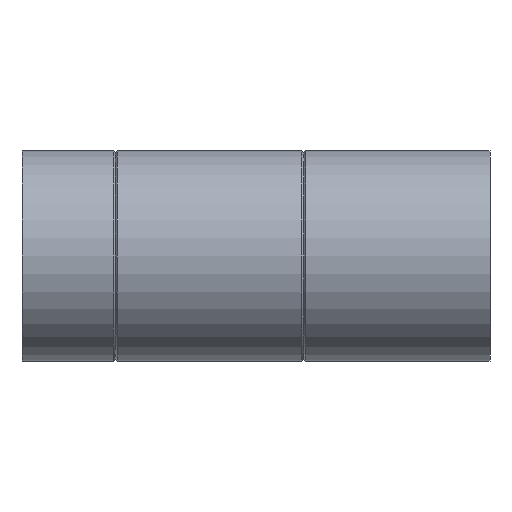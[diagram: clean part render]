
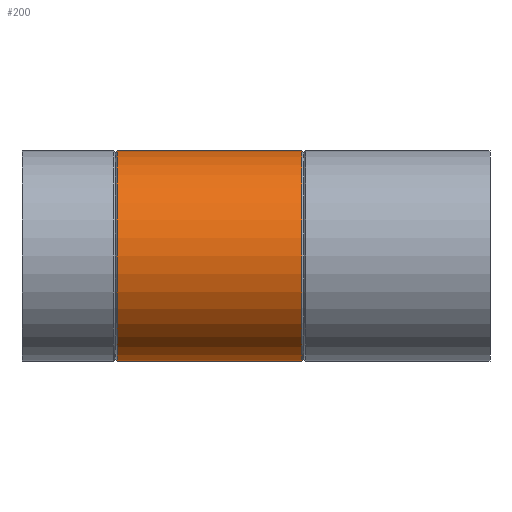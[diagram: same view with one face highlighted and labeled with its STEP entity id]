
A CAD part, left-side view. The second image highlights one B-rep face of the part: STEP entity #200.
In plain terms, the highlighted cylindrical face has radius 45.19 mm (diameter 90.38 mm), a full revolution.
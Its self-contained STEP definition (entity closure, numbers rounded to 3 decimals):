
#15=B_SPLINE_CURVE_WITH_KNOTS($,3,(#325,#326,#327,#328,#329,#330,#331,#332,
#333,#334,#335,#336,#337,#338,#339,#340,#341,#342,#343,#344,#345,#346,#347,
#348,#349,#350,#351,#352,#353,#354,#355,#356,#357,#358,#359,#360,#361,#362,
#363,#364,#365,#366,#367,#368,#369,#370,#371,#372,#373,#374,#375,#376,#377,
#378,#379,#380,#381,#382,#383,#384,#385,#386,#387,#388,#389,#390),
 .UNSPECIFIED.,.T.,.F.,(4,2,2,2,2,2,2,2,2,2,2,2,2,2,2,2,2,2,2,2,2,2,2,2,
2,2,2,2,2,2,2,2,4),(0.,0.553,1.106,1.659,
2.212,2.759,3.307,3.854,4.402,
4.95,5.497,6.045,6.592,7.145,
7.698,8.251,8.804,9.351,9.897,
10.444,10.99,11.536,12.082,12.628,
13.173,13.719,14.265,14.811,15.356,
15.903,16.449,16.996,17.542),
 .UNSPECIFIED.);
#17=CYLINDRICAL_SURFACE($,#222,45.19);
#26=FACE_BOUND($,#63,.T.);
#27=FACE_BOUND($,#64,.T.);
#48=FACE_OUTER_BOUND($,#62,.T.);
#62=EDGE_LOOP($,(#145));
#63=EDGE_LOOP($,(#146));
#64=EDGE_LOOP($,(#147));
#94=CIRCLE($,#221,45.19);
#95=CIRCLE($,#223,45.19);
#109=VERTEX_POINT($,#319);
#110=VERTEX_POINT($,#322);
#111=VERTEX_POINT($,#324);
#126=EDGE_CURVE($,#109,#109,#94,.T.);
#127=EDGE_CURVE($,#110,#110,#95,.T.);
#128=EDGE_CURVE($,#111,#111,#15,.T.);
#145=ORIENTED_EDGE($,*,*,#127,.T.);
#146=ORIENTED_EDGE($,*,*,#128,.T.);
#147=ORIENTED_EDGE($,*,*,#126,.T.);
#200=ADVANCED_FACE($,(#48,#26,#27),#17,.T.);
#221=AXIS2_PLACEMENT_3D($,#320,#258,#259);
#222=AXIS2_PLACEMENT_3D($,#321,#260,#261);
#223=AXIS2_PLACEMENT_3D($,#323,#262,#263);
#258=DIRECTION('center_axis',(0.,-1.,0.));
#259=DIRECTION('ref_axis',(1.,0.,0.));
#260=DIRECTION('center_axis',(0.,1.,0.));
#261=DIRECTION('ref_axis',(1.,0.,0.));
#262=DIRECTION('center_axis',(0.,1.,0.));
#263=DIRECTION('ref_axis',(1.,0.,0.));
#319=CARTESIAN_POINT('',(45.19,160.096,0.));
#320=CARTESIAN_POINT('Origin',(0.,160.096,0.));
#321=CARTESIAN_POINT('Origin',(0.,0.,0.));
#322=CARTESIAN_POINT('',(-45.19,80.904,0.));
#323=CARTESIAN_POINT('Origin',(0.,80.904,0.));
#324=CARTESIAN_POINT('',(35.371,121.426,28.125));
#325=CARTESIAN_POINT('Ctrl Pts',(35.371,121.426,28.125));
#326=CARTESIAN_POINT('Ctrl Pts',(35.371,123.269,28.125));
#327=CARTESIAN_POINT('Ctrl Pts',(35.519,125.148,27.941));
#328=CARTESIAN_POINT('Ctrl Pts',(36.091,128.845,27.2));
#329=CARTESIAN_POINT('Ctrl Pts',(36.512,130.662,26.642));
#330=CARTESIAN_POINT('Ctrl Pts',(37.525,134.125,25.195));
#331=CARTESIAN_POINT('Ctrl Pts',(38.117,135.773,24.304));
#332=CARTESIAN_POINT('Ctrl Pts',(39.344,138.819,22.263));
#333=CARTESIAN_POINT('Ctrl Pts',(39.979,140.216,21.112));
#334=CARTESIAN_POINT('Ctrl Pts',(41.173,142.685,18.675));
#335=CARTESIAN_POINT('Ctrl Pts',(41.778,143.85,17.301));
#336=CARTESIAN_POINT('Ctrl Pts',(42.902,145.926,14.288));
#337=CARTESIAN_POINT('Ctrl Pts',(43.42,146.836,12.648));
#338=CARTESIAN_POINT('Ctrl Pts',(44.28,148.314,9.196));
#339=CARTESIAN_POINT('Ctrl Pts',(44.622,148.882,7.381));
#340=CARTESIAN_POINT('Ctrl Pts',(45.077,149.634,3.695));
#341=CARTESIAN_POINT('Ctrl Pts',(45.19,149.818,1.825));
#342=CARTESIAN_POINT('Ctrl Pts',(45.19,149.818,-1.825));
#343=CARTESIAN_POINT('Ctrl Pts',(45.077,149.634,-3.695));
#344=CARTESIAN_POINT('Ctrl Pts',(44.622,148.882,-7.381));
#345=CARTESIAN_POINT('Ctrl Pts',(44.28,148.314,-9.196));
#346=CARTESIAN_POINT('Ctrl Pts',(43.42,146.836,-12.648));
#347=CARTESIAN_POINT('Ctrl Pts',(42.902,145.926,-14.288));
#348=CARTESIAN_POINT('Ctrl Pts',(41.778,143.85,-17.301));
#349=CARTESIAN_POINT('Ctrl Pts',(41.173,142.685,-18.675));
#350=CARTESIAN_POINT('Ctrl Pts',(39.979,140.216,-21.112));
#351=CARTESIAN_POINT('Ctrl Pts',(39.344,138.819,-22.263));
#352=CARTESIAN_POINT('Ctrl Pts',(38.117,135.773,-24.304));
#353=CARTESIAN_POINT('Ctrl Pts',(37.525,134.125,-25.195));
#354=CARTESIAN_POINT('Ctrl Pts',(36.512,130.662,-26.642));
#355=CARTESIAN_POINT('Ctrl Pts',(36.091,128.845,-27.2));
#356=CARTESIAN_POINT('Ctrl Pts',(35.519,125.148,-27.941));
#357=CARTESIAN_POINT('Ctrl Pts',(35.371,123.269,-28.125));
#358=CARTESIAN_POINT('Ctrl Pts',(35.371,119.604,-28.125));
#359=CARTESIAN_POINT('Ctrl Pts',(35.516,117.746,-27.945));
#360=CARTESIAN_POINT('Ctrl Pts',(36.081,114.094,-27.212));
#361=CARTESIAN_POINT('Ctrl Pts',(36.499,112.299,-26.659));
#362=CARTESIAN_POINT('Ctrl Pts',(37.509,108.888,-25.219));
#363=CARTESIAN_POINT('Ctrl Pts',(38.1,107.267,-24.33));
#364=CARTESIAN_POINT('Ctrl Pts',(39.327,104.279,-22.293));
#365=CARTESIAN_POINT('Ctrl Pts',(39.962,102.912,-21.143));
#366=CARTESIAN_POINT('Ctrl Pts',(41.161,100.493,-18.701));
#367=CARTESIAN_POINT('Ctrl Pts',(41.771,99.35,-17.319));
#368=CARTESIAN_POINT('Ctrl Pts',(42.901,97.323,-14.291));
#369=CARTESIAN_POINT('Ctrl Pts',(43.421,96.437,-12.646));
#370=CARTESIAN_POINT('Ctrl Pts',(44.282,95.002,-9.187));
#371=CARTESIAN_POINT('Ctrl Pts',(44.624,94.452,-7.369));
#372=CARTESIAN_POINT('Ctrl Pts',(45.078,93.725,-3.686));
#373=CARTESIAN_POINT('Ctrl Pts',(45.19,93.549,-1.819));
#374=CARTESIAN_POINT('Ctrl Pts',(45.19,93.549,1.819));
#375=CARTESIAN_POINT('Ctrl Pts',(45.078,93.725,3.686));
#376=CARTESIAN_POINT('Ctrl Pts',(44.624,94.452,7.369));
#377=CARTESIAN_POINT('Ctrl Pts',(44.282,95.002,9.187));
#378=CARTESIAN_POINT('Ctrl Pts',(43.421,96.437,12.646));
#379=CARTESIAN_POINT('Ctrl Pts',(42.901,97.323,14.291));
#380=CARTESIAN_POINT('Ctrl Pts',(41.771,99.35,17.319));
#381=CARTESIAN_POINT('Ctrl Pts',(41.161,100.493,18.701));
#382=CARTESIAN_POINT('Ctrl Pts',(39.962,102.912,21.143));
#383=CARTESIAN_POINT('Ctrl Pts',(39.327,104.279,22.293));
#384=CARTESIAN_POINT('Ctrl Pts',(38.1,107.267,24.33));
#385=CARTESIAN_POINT('Ctrl Pts',(37.509,108.888,25.219));
#386=CARTESIAN_POINT('Ctrl Pts',(36.499,112.299,26.659));
#387=CARTESIAN_POINT('Ctrl Pts',(36.081,114.094,27.212));
#388=CARTESIAN_POINT('Ctrl Pts',(35.516,117.746,27.945));
#389=CARTESIAN_POINT('Ctrl Pts',(35.371,119.604,28.125));
#390=CARTESIAN_POINT('Ctrl Pts',(35.371,121.426,28.125));
